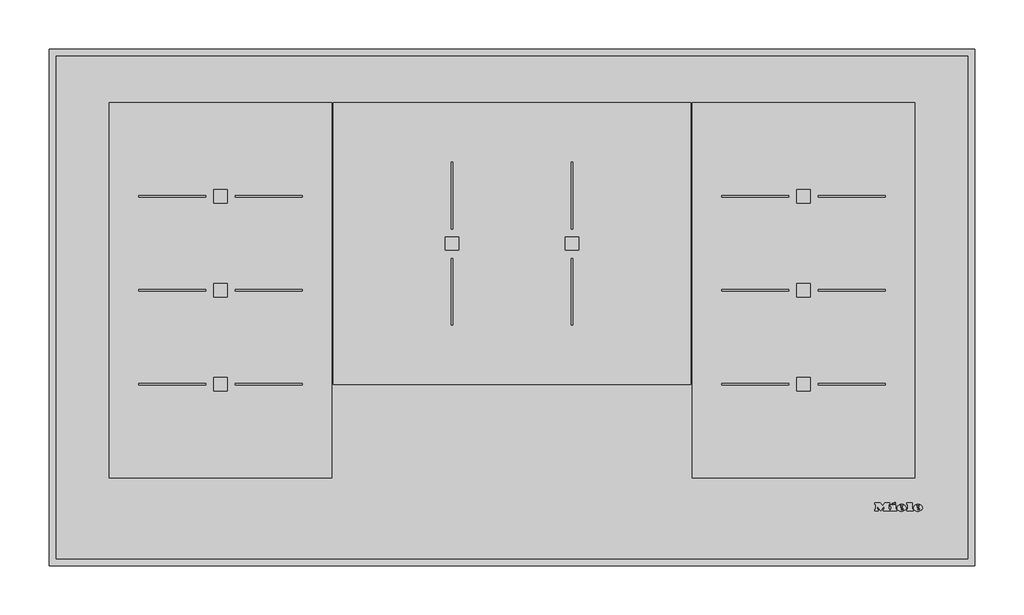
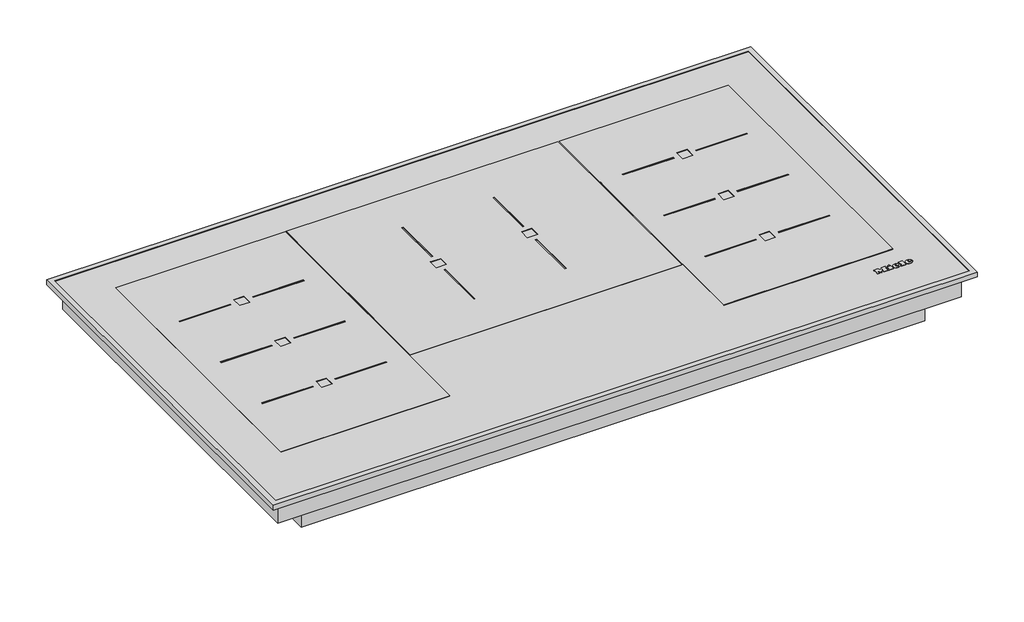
# Not in any storey: 1 proxy.
"""IFC4 building model written with IfcOpenShell, lengths in millimetres."""

from ifc_helpers import new_model, si_unit, origin, place, context, project, spatial, transform, mapped, element, save
from components import specialty_equipment_14de2ed7

model = new_model("IFC4")

# Units and contexts
model_context = context("Model", 3, world=origin())
ifc_project = project(units=[si_unit("LENGTHUNIT", "METRE", prefix="MILLI")], contexts=[model_context])

# Site, building
site = spatial("IfcSite", under=ifc_project)
building = spatial("IfcBuilding", under=site)

# Proxy
placement = place(None, origin())
specialty_equipment_shape = specialty_equipment_14de2ed7(model_context)
element("IfcBuildingElementProxy", 1, Name="11126910_F_KM7999FR : 26799900_F_11126910_KM7999FR", ObjectType="11126910_F_KM7999FR : 26799900_F_11126910_KM7999FR", at=placement, inside=building, context=model_context, shape_type="MappedRepresentation", body=[
    mapped(specialty_equipment_shape, transform((0.0, 0.0, 0.0), x_axis=(1.0, 0.0, 0.0), y_axis=(0.0, 1.0, 0.0), z_axis=(0.0, 0.0, 1.0))),
])

save(model, "model.ifc")
